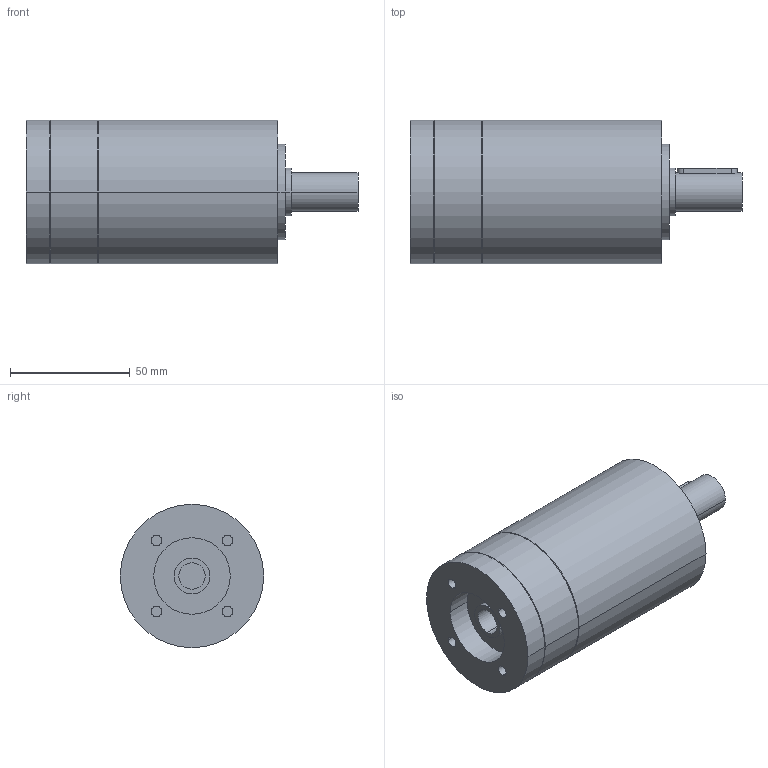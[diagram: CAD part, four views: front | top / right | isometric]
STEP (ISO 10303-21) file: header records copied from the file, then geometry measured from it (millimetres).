
FILE_DESCRIPTION(('CoCreate Modeling STEP Export'),'2;1');
FILE_NAME('GPR75_ig-9-12-16-20-24-30-36_16_B14_11_P11.stp','2014-08-25T16:01:41',(''),(''),'CoCreate Modeling STEP processor for AP214 (Solid Model)','CoCreate Modeling 16.00C 25-Feb-2009 (C) Parametric Technology GmbH','');
FILE_SCHEMA(('AUTOMOTIVE_DESIGN { 1 0 10303 214 1 1 1 1 }'));
Length unit declared in the file: millimetre
Products named in the file (2): GPR75_ig-9-12-16-20-24-30-36_16_B14_11_P11
Assembly tree (1 placements, depth 2):
  GPR75_ig-9-12-16-20-24-30-36_16_B14_11_P11
    GPR75_ig-9-12-16-20-24-30-36_16_B14_11_P11
Bounding box: 138.9 x 60 x 60 mm (x, y, z)
Volume: 297128.9 mm3; surface area: 31381.9 mm2
Topology: 1 solids, 1 shells, 77 faces, 197 edges, 141 vertices
Faces by surface type: cylinder 46, plane 25, cone 6
Entity records: 1971 total; most frequent: ORIENTED_EDGE 390, CARTESIAN_POINT 361, DIRECTION 254, EDGE_CURVE 195, VERTEX_POINT 141, AXIS2_PLACEMENT_3D 98, EDGE_LOOP 98, FACE_OUTER_BOUND 77
